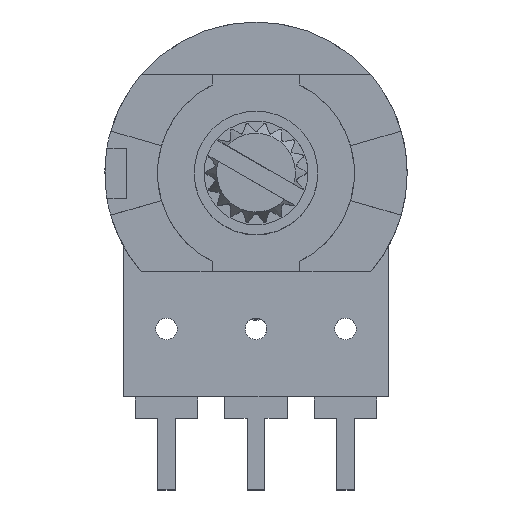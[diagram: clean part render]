
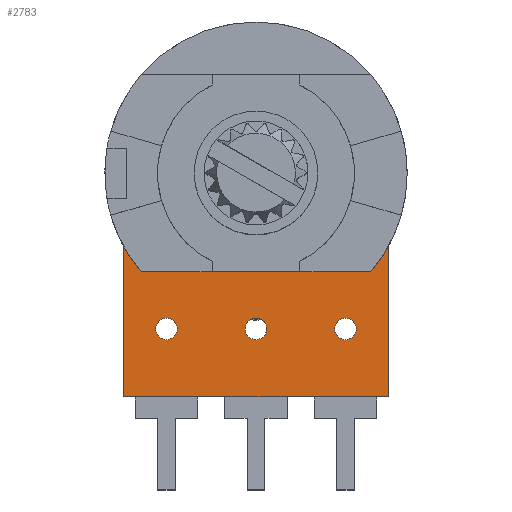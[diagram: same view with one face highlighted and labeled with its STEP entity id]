
A CAD part, top view. The second image highlights one B-rep face of the part: STEP entity #2783.
In plain terms, the highlighted planar face has unit normal (0, 0, 1).
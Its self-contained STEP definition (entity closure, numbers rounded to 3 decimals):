
#152=FACE_BOUND('',#320,.T.);
#153=FACE_BOUND('',#321,.T.);
#154=FACE_BOUND('',#322,.T.);
#169=FACE_OUTER_BOUND('',#319,.T.);
#319=EDGE_LOOP('',(#1870,#1871,#1872,#1873,#1874,#1875));
#320=EDGE_LOOP('',(#1876));
#321=EDGE_LOOP('',(#1877));
#322=EDGE_LOOP('',(#1878));
#476=CIRCLE('',#2971,8.45);
#477=CIRCLE('',#2972,8.45);
#478=CIRCLE('',#2973,0.6);
#479=CIRCLE('',#2974,0.6);
#480=CIRCLE('',#2975,0.6);
#581=LINE('',#4023,#847);
#589=LINE('',#4044,#855);
#590=LINE('',#4046,#856);
#591=LINE('',#4048,#857);
#847=VECTOR('',#3253,10.);
#855=VECTOR('',#3275,10.);
#856=VECTOR('',#3276,10.);
#857=VECTOR('',#3277,10.);
#1117=VERTEX_POINT('',#4021);
#1118=VERTEX_POINT('',#4022);
#1123=VERTEX_POINT('',#4041);
#1124=VERTEX_POINT('',#4043);
#1125=VERTEX_POINT('',#4045);
#1126=VERTEX_POINT('',#4047);
#1127=VERTEX_POINT('',#4050);
#1128=VERTEX_POINT('',#4052);
#1129=VERTEX_POINT('',#4054);
#1411=EDGE_CURVE('',#1117,#1118,#581,.T.);
#1421=EDGE_CURVE('',#1123,#1118,#476,.T.);
#1422=EDGE_CURVE('',#1124,#1123,#589,.T.);
#1423=EDGE_CURVE('',#1125,#1124,#590,.T.);
#1424=EDGE_CURVE('',#1126,#1125,#591,.T.);
#1425=EDGE_CURVE('',#1117,#1126,#477,.T.);
#1426=EDGE_CURVE('',#1127,#1127,#478,.T.);
#1427=EDGE_CURVE('',#1128,#1128,#479,.T.);
#1428=EDGE_CURVE('',#1129,#1129,#480,.T.);
#1870=ORIENTED_EDGE('',*,*,#1411,.T.);
#1871=ORIENTED_EDGE('',*,*,#1421,.F.);
#1872=ORIENTED_EDGE('',*,*,#1422,.F.);
#1873=ORIENTED_EDGE('',*,*,#1423,.F.);
#1874=ORIENTED_EDGE('',*,*,#1424,.F.);
#1875=ORIENTED_EDGE('',*,*,#1425,.F.);
#1876=ORIENTED_EDGE('',*,*,#1426,.T.);
#1877=ORIENTED_EDGE('',*,*,#1427,.T.);
#1878=ORIENTED_EDGE('',*,*,#1428,.T.);
#2682=PLANE('',#2970);
#2783=ADVANCED_FACE('',(#169,#152,#153,#154),#2682,.T.);
#2970=AXIS2_PLACEMENT_3D('',#4040,#3271,#3272);
#2971=AXIS2_PLACEMENT_3D('',#4042,#3273,#3274);
#2972=AXIS2_PLACEMENT_3D('',#4049,#3278,#3279);
#2973=AXIS2_PLACEMENT_3D('',#4051,#3280,#3281);
#2974=AXIS2_PLACEMENT_3D('',#4053,#3282,#3283);
#2975=AXIS2_PLACEMENT_3D('',#4055,#3284,#3285);
#3253=DIRECTION('',(-1.,0.,0.));
#3271=DIRECTION('center_axis',(0.,0.,1.));
#3272=DIRECTION('ref_axis',(1.,0.,0.));
#3273=DIRECTION('center_axis',(0.,0.,1.));
#3274=DIRECTION('ref_axis',(1.,0.,0.));
#3275=DIRECTION('',(0.,1.,0.));
#3276=DIRECTION('',(-1.,0.,0.));
#3277=DIRECTION('',(0.,-1.,0.));
#3278=DIRECTION('center_axis',(0.,0.,1.));
#3279=DIRECTION('ref_axis',(1.,0.,0.));
#3280=DIRECTION('center_axis',(0.,0.,-1.));
#3281=DIRECTION('ref_axis',(1.,0.,0.));
#3282=DIRECTION('center_axis',(0.,0.,-1.));
#3283=DIRECTION('ref_axis',(1.,0.,0.));
#3284=DIRECTION('center_axis',(0.,0.,-1.));
#3285=DIRECTION('ref_axis',(1.,0.,0.));
#4021=CARTESIAN_POINT('',(6.415,-5.5,0.));
#4022=CARTESIAN_POINT('',(-6.415,-5.5,0.));
#4023=CARTESIAN_POINT('',(1.225,-5.5,0.));
#4040=CARTESIAN_POINT('Origin',(0.,0.009,0.));
#4041=CARTESIAN_POINT('',(-7.4,-4.08,0.));
#4042=CARTESIAN_POINT('Origin',(0.,0.,0.));
#4043=CARTESIAN_POINT('',(-7.4,-12.5,0.));
#4044=CARTESIAN_POINT('',(-7.4,-12.5,0.));
#4045=CARTESIAN_POINT('',(7.4,-12.5,0.));
#4046=CARTESIAN_POINT('',(7.4,-12.5,0.));
#4047=CARTESIAN_POINT('',(7.4,-4.08,0.));
#4048=CARTESIAN_POINT('',(7.4,-4.08,0.));
#4049=CARTESIAN_POINT('Origin',(0.,0.,0.));
#4050=CARTESIAN_POINT('',(-0.6,-8.7,0.));
#4051=CARTESIAN_POINT('Origin',(0.,-8.7,0.));
#4052=CARTESIAN_POINT('',(-5.6,-8.7,0.));
#4053=CARTESIAN_POINT('Origin',(-5.,-8.7,0.));
#4054=CARTESIAN_POINT('',(4.4,-8.7,0.));
#4055=CARTESIAN_POINT('Origin',(5.,-8.7,0.));
